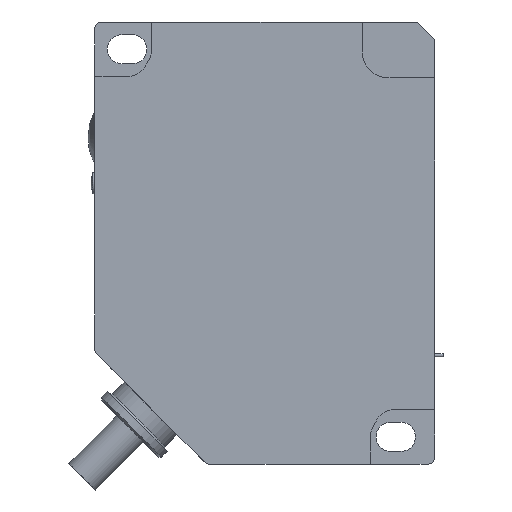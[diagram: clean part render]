
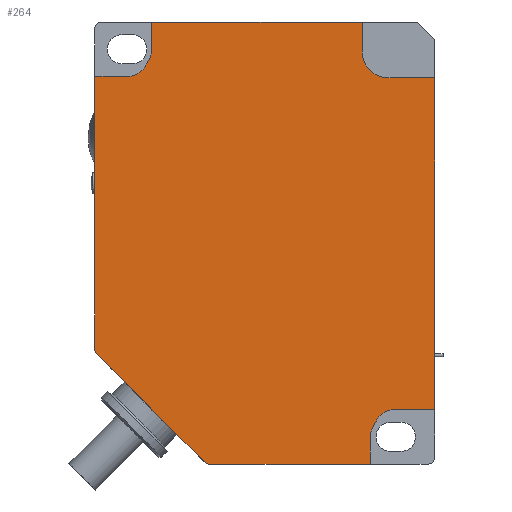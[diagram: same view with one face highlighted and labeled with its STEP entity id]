
A CAD part, front view. The second image highlights one B-rep face of the part: STEP entity #264.
In plain terms, the highlighted planar face has unit normal (0, -1, 0).
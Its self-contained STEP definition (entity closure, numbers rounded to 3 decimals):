
#264 = ADVANCED_FACE( '', ( #596 ), #597, .T. );
#596 = FACE_OUTER_BOUND( '', #999, .T. );
#597 = PLANE( '', #1000 );
#999 = EDGE_LOOP( '', ( #1723, #1724, #1725, #1726, #1727, #1728, #1729, #1730, #1731, #1732, #1733, #1734, #1735, #1736, #1737, #1738, #1739, #1740, #1741, #1742 ) );
#1000 = AXIS2_PLACEMENT_3D( '', #1743, #1744, #1745 );
#1723 = ORIENTED_EDGE( '', *, *, #2492, .F. );
#1724 = ORIENTED_EDGE( '', *, *, #2373, .F. );
#1725 = ORIENTED_EDGE( '', *, *, #2435, .F. );
#1726 = ORIENTED_EDGE( '', *, *, #2429, .F. );
#1727 = ORIENTED_EDGE( '', *, *, #2493, .F. );
#1728 = ORIENTED_EDGE( '', *, *, #2454, .F. );
#1729 = ORIENTED_EDGE( '', *, *, #2292, .F. );
#1730 = ORIENTED_EDGE( '', *, *, #2494, .F. );
#1731 = ORIENTED_EDGE( '', *, *, #2340, .F. );
#1732 = ORIENTED_EDGE( '', *, *, #2495, .F. );
#1733 = ORIENTED_EDGE( '', *, *, #2383, .F. );
#1734 = ORIENTED_EDGE( '', *, *, #2496, .F. );
#1735 = ORIENTED_EDGE( '', *, *, #2497, .F. );
#1736 = ORIENTED_EDGE( '', *, *, #2471, .F. );
#1737 = ORIENTED_EDGE( '', *, *, #2480, .F. );
#1738 = ORIENTED_EDGE( '', *, *, #2498, .F. );
#1739 = ORIENTED_EDGE( '', *, *, #2499, .F. );
#1740 = ORIENTED_EDGE( '', *, *, #2287, .F. );
#1741 = ORIENTED_EDGE( '', *, *, #2301, .T. );
#1742 = ORIENTED_EDGE( '', *, *, #2500, .F. );
#1743 = CARTESIAN_POINT( '', ( -51.261, -10.05, 24.125 ) );
#1744 = DIRECTION( '', ( 0., -1., 0. ) );
#1745 = DIRECTION( '', ( 0., 0., -1. ) );
#2287 = EDGE_CURVE( '', #2705, #2707, #2708, .T. );
#2292 = EDGE_CURVE( '', #2713, #2711, #2715, .T. );
#2301 = EDGE_CURVE( '', #2705, #2730, #2732, .T. );
#2340 = EDGE_CURVE( '', #2798, #2800, #2801, .T. );
#2373 = EDGE_CURVE( '', #2854, #2849, #2856, .T. );
#2383 = EDGE_CURVE( '', #2871, #2867, #2873, .T. );
#2429 = EDGE_CURVE( '', #2948, #2943, #2950, .T. );
#2435 = EDGE_CURVE( '', #2943, #2854, #2958, .T. );
#2454 = EDGE_CURVE( '', #2711, #2981, #2983, .T. );
#2471 = EDGE_CURVE( '', #3008, #3004, #3010, .T. );
#2480 = EDGE_CURVE( '', #3021, #3008, #3023, .T. );
#2492 = EDGE_CURVE( '', #2849, #3041, #3042, .T. );
#2493 = EDGE_CURVE( '', #2981, #2948, #3043, .T. );
#2494 = EDGE_CURVE( '', #2800, #2713, #3044, .T. );
#2495 = EDGE_CURVE( '', #2867, #2798, #3045, .T. );
#2496 = EDGE_CURVE( '', #3046, #2871, #3047, .T. );
#2497 = EDGE_CURVE( '', #3004, #3046, #3048, .T. );
#2498 = EDGE_CURVE( '', #3049, #3021, #3050, .T. );
#2499 = EDGE_CURVE( '', #2707, #3049, #3051, .T. );
#2500 = EDGE_CURVE( '', #3041, #2730, #3052, .T. );
#2705 = VERTEX_POINT( '', #3303 );
#2707 = VERTEX_POINT( '', #3306 );
#2708 = CIRCLE( '', #3307, 1. );
#2711 = VERTEX_POINT( '', #3311 );
#2713 = VERTEX_POINT( '', #3314 );
#2715 = CIRCLE( '', #3317, 3.8 );
#2730 = VERTEX_POINT( '', #3338 );
#2732 = B_SPLINE_CURVE_WITH_KNOTS( '', 1, ( #3341, #3342 ), .UNSPECIFIED., .F., .F., ( 2, 2 ), ( 0., 0.024 ), .UNSPECIFIED. );
#2798 = VERTEX_POINT( '', #3432 );
#2800 = VERTEX_POINT( '', #3435 );
#2801 = B_SPLINE_CURVE_WITH_KNOTS( '', 1, ( #3436, #3437 ), .UNSPECIFIED., .F., .F., ( 2, 2 ), ( 0.008, 0.039 ), .UNSPECIFIED. );
#2849 = VERTEX_POINT( '', #3507 );
#2854 = VERTEX_POINT( '', #3514 );
#2856 = LINE( '', #3517, #3518 );
#2867 = VERTEX_POINT( '', #3533 );
#2871 = VERTEX_POINT( '', #3538 );
#2873 = CIRCLE( '', #3541, 3. );
#2943 = VERTEX_POINT( '', #3631 );
#2948 = VERTEX_POINT( '', #3638 );
#2950 = LINE( '', #3641, #3642 );
#2958 = CIRCLE( '', #3651, 3. );
#2981 = VERTEX_POINT( '', #3681 );
#2983 = LINE( '', #3684, #3685 );
#3004 = VERTEX_POINT( '', #3706 );
#3008 = VERTEX_POINT( '', #3712 );
#3010 = LINE( '', #3715, #3716 );
#3021 = VERTEX_POINT( '', #3730 );
#3023 = B_SPLINE_CURVE_WITH_KNOTS( '', 1, ( #3733, #3734 ), .UNSPECIFIED., .F., .F., ( 2, 2 ), ( 0., 0.04 ), .UNSPECIFIED. );
#3041 = VERTEX_POINT( '', #3757 );
#3042 = CIRCLE( '', #3758, 3. );
#3043 = B_SPLINE_CURVE_WITH_KNOTS( '', 1, ( #3759, #3760 ), .UNSPECIFIED., .F., .F., ( 2, 2 ), ( 0.006, 0.055 ), .UNSPECIFIED. );
#3044 = LINE( '', #3761, #3762 );
#3045 = LINE( '', #3763, #3764 );
#3046 = VERTEX_POINT( '', #3765 );
#3047 = LINE( '', #3766, #3767 );
#3048 = CIRCLE( '', #3768, 3. );
#3049 = VERTEX_POINT( '', #3769 );
#3050 = CIRCLE( '', #3770, 1. );
#3051 = B_SPLINE_CURVE_WITH_KNOTS( '', 1, ( #3771, #3772 ), .UNSPECIFIED., .F., .F., ( 2, 2 ), ( 0., 0.023 ), .UNSPECIFIED. );
#3052 = LINE( '', #3773, #3774 );
#3303 = CARTESIAN_POINT( '', ( -33.102, -10.05, -42.5 ) );
#3306 = CARTESIAN_POINT( '', ( -33.809, -10.05, -42.207 ) );
#3307 = AXIS2_PLACEMENT_3D( '', #4080, #4081, #4082 );
#3311 = CARTESIAN_POINT( '', ( -6.911, -10.05, 14.3 ) );
#3314 = CARTESIAN_POINT( '', ( -10.711, -10.05, 18.1 ) );
#3317 = AXIS2_PLACEMENT_3D( '', #4086, #4087, #4088 );
#3338 = CARTESIAN_POINT( '', ( -9.511, -10.05, -42.5 ) );
#3341 = CARTESIAN_POINT( '', ( -33.102, -10.05, -42.5 ) );
#3342 = CARTESIAN_POINT( '', ( -9.511, -10.05, -42.5 ) );
#3432 = CARTESIAN_POINT( '', ( -41.627, -10.05, 22.5 ) );
#3435 = CARTESIAN_POINT( '', ( -10.711, -10.05, 22.5 ) );
#3436 = CARTESIAN_POINT( '', ( -41.627, -10.05, 22.5 ) );
#3437 = CARTESIAN_POINT( '', ( -10.711, -10.05, 22.5 ) );
#3507 = CARTESIAN_POINT( '', ( -9.11, -10.05, -37. ) );
#3514 = CARTESIAN_POINT( '', ( -8.532, -10.05, -36. ) );
#3517 = CARTESIAN_POINT( '', ( -8.821, -10.05, -36.5 ) );
#3518 = VECTOR( '', #4155, 1000. );
#3533 = CARTESIAN_POINT( '', ( -41.627, -10.05, 18.5 ) );
#3538 = CARTESIAN_POINT( '', ( -42.029, -10.05, 17. ) );
#3541 = AXIS2_PLACEMENT_3D( '', #4164, #4165, #4166 );
#3631 = CARTESIAN_POINT( '', ( -5.934, -10.05, -34.5 ) );
#3638 = CARTESIAN_POINT( '', ( -0.011, -10.05, -34.5 ) );
#3641 = CARTESIAN_POINT( '', ( -2.973, -10.05, -34.5 ) );
#3642 = VECTOR( '', #4230, 1000. );
#3651 = AXIS2_PLACEMENT_3D( '', #4238, #4239, #4240 );
#3681 = CARTESIAN_POINT( '', ( -0.011, -10.05, 14.3 ) );
#3684 = CARTESIAN_POINT( '', ( -3.461, -10.05, 14.3 ) );
#3685 = VECTOR( '', #4258, 1000. );
#3706 = CARTESIAN_POINT( '', ( -45.204, -10.05, 14.5 ) );
#3712 = CARTESIAN_POINT( '', ( -50.011, -10.05, 14.5 ) );
#3715 = CARTESIAN_POINT( '', ( -47.608, -10.05, 14.5 ) );
#3716 = VECTOR( '', #4280, 1000. );
#3730 = CARTESIAN_POINT( '', ( -50.011, -10.05, -25.59 ) );
#3733 = CARTESIAN_POINT( '', ( -50.011, -10.05, -25.59 ) );
#3734 = CARTESIAN_POINT( '', ( -50.011, -10.05, 14.5 ) );
#3757 = CARTESIAN_POINT( '', ( -9.511, -10.05, -38.5 ) );
#3758 = AXIS2_PLACEMENT_3D( '', #4304, #4305, #4306 );
#3759 = CARTESIAN_POINT( '', ( -0.011, -10.05, 14.3 ) );
#3760 = CARTESIAN_POINT( '', ( -0.011, -10.05, -34.5 ) );
#3761 = CARTESIAN_POINT( '', ( -10.711, -10.05, 20.3 ) );
#3762 = VECTOR( '', #4307, 1000. );
#3763 = CARTESIAN_POINT( '', ( -41.627, -10.05, 20.5 ) );
#3764 = VECTOR( '', #4308, 1000. );
#3765 = CARTESIAN_POINT( '', ( -42.606, -10.05, 16. ) );
#3766 = CARTESIAN_POINT( '', ( -42.318, -10.05, 16.5 ) );
#3767 = VECTOR( '', #4309, 1000. );
#3768 = AXIS2_PLACEMENT_3D( '', #4310, #4311, #4312 );
#3769 = CARTESIAN_POINT( '', ( -49.719, -10.05, -26.297 ) );
#3770 = AXIS2_PLACEMENT_3D( '', #4313, #4314, #4315 );
#3771 = CARTESIAN_POINT( '', ( -33.809, -10.05, -42.207 ) );
#3772 = CARTESIAN_POINT( '', ( -49.719, -10.05, -26.297 ) );
#3773 = CARTESIAN_POINT( '', ( -9.511, -10.05, -40.5 ) );
#3774 = VECTOR( '', #4316, 1000. );
#4080 = CARTESIAN_POINT( '', ( -33.102, -10.05, -41.5 ) );
#4081 = DIRECTION( '', ( 0., 1., 0. ) );
#4082 = DIRECTION( '', ( -1., 0., 0. ) );
#4086 = CARTESIAN_POINT( '', ( -6.911, -10.05, 18.1 ) );
#4087 = DIRECTION( '', ( 0., -1., 0. ) );
#4088 = DIRECTION( '', ( 1., 0., 0. ) );
#4155 = DIRECTION( '', ( -0.5, 0., -0.866 ) );
#4164 = CARTESIAN_POINT( '', ( -44.627, -10.05, 18.5 ) );
#4165 = DIRECTION( '', ( 0., -1., 0. ) );
#4166 = DIRECTION( '', ( 1., 0., 0. ) );
#4230 = DIRECTION( '', ( -1., 0., 0. ) );
#4238 = CARTESIAN_POINT( '', ( -5.934, -10.05, -37.5 ) );
#4239 = DIRECTION( '', ( 0., -1., 0. ) );
#4240 = DIRECTION( '', ( 1., 0., 0. ) );
#4258 = DIRECTION( '', ( 1., 0., 0. ) );
#4280 = DIRECTION( '', ( 1., 0., 0. ) );
#4304 = CARTESIAN_POINT( '', ( -6.511, -10.05, -38.5 ) );
#4305 = DIRECTION( '', ( 0., -1., 0. ) );
#4306 = DIRECTION( '', ( 1., 0., 0. ) );
#4307 = DIRECTION( '', ( 0., 0., -1. ) );
#4308 = DIRECTION( '', ( 0., 0., 1. ) );
#4309 = DIRECTION( '', ( 0.5, 0., 0.866 ) );
#4310 = CARTESIAN_POINT( '', ( -45.204, -10.05, 17.5 ) );
#4311 = DIRECTION( '', ( 0., -1., 0. ) );
#4312 = DIRECTION( '', ( 0., 0., 1. ) );
#4313 = CARTESIAN_POINT( '', ( -49.011, -10.05, -25.59 ) );
#4314 = DIRECTION( '', ( 0., 1., 0. ) );
#4315 = DIRECTION( '', ( -1., 0., 0. ) );
#4316 = DIRECTION( '', ( 0., 0., -1. ) );
